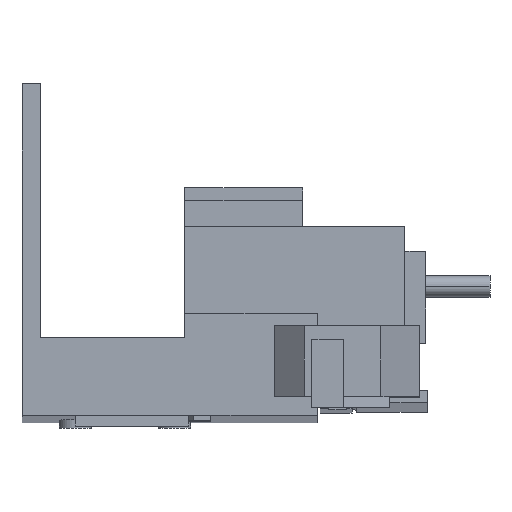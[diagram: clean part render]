
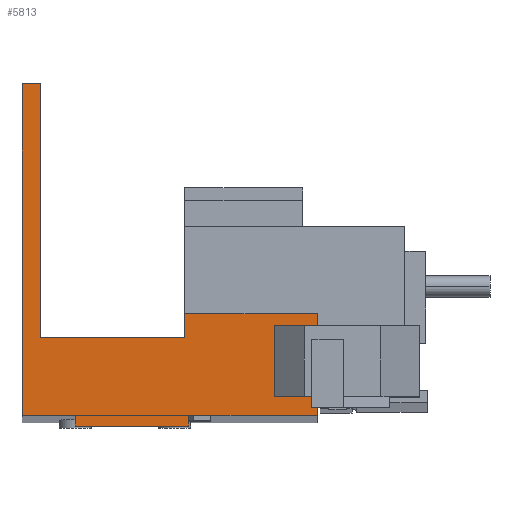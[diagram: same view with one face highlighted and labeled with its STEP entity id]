
A CAD part, front view. The second image highlights one B-rep face of the part: STEP entity #5813.
In plain terms, the highlighted planar face has unit normal (0, -1, 0.002).
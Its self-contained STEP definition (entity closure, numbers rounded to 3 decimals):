
#172 = ORIENTED_EDGE ( 'NONE', *, *, #6550, .T. ) ;
#174 = ORIENTED_EDGE ( 'NONE', *, *, #6508, .F. ) ;
#175 = ORIENTED_EDGE ( 'NONE', *, *, #6660, .F. ) ;
#177 = ORIENTED_EDGE ( 'NONE', *, *, #6485, .F. ) ;
#184 = ORIENTED_EDGE ( 'NONE', *, *, #4064, .F. ) ;
#189 = ORIENTED_EDGE ( 'NONE', *, *, #6519, .T. ) ;
#190 = ORIENTED_EDGE ( 'NONE', *, *, #6473, .F. ) ;
#191 = ORIENTED_EDGE ( 'NONE', *, *, #6535, .F. ) ;
#192 = ORIENTED_EDGE ( 'NONE', *, *, #6504, .F. ) ;
#193 = ORIENTED_EDGE ( 'NONE', *, *, #4053, .F. ) ;
#280 = VECTOR ( 'NONE', #4363, 1000. ) ;
#284 = LINE ( 'NONE', #4370, #280 ) ;
#492 = FACE_OUTER_BOUND ( 'NONE', #4998, .T. ) ;
#812 = LINE ( 'NONE', #4608, #927 ) ;
#837 = VECTOR ( 'NONE', #4233, 1000. ) ;
#843 = LINE ( 'NONE', #4235, #837 ) ;
#927 = VECTOR ( 'NONE', #4607, 1000. ) ;
#1187 = VECTOR ( 'NONE', #1552, 1000. ) ;
#1192 = VECTOR ( 'NONE', #1545, 1000. ) ;
#1194 = LINE ( 'NONE', #1556, #1192 ) ;
#1196 = LINE ( 'NONE', #1540, #1187 ) ;
#1540 = CARTESIAN_POINT ( 'NONE',  ( 2.55, -32.978, 10.519 ) ) ;
#1545 = DIRECTION ( 'NONE',  ( 0., 0.002, 1. ) ) ;
#1552 = DIRECTION ( 'NONE',  ( 1., 0., 0. ) ) ;
#1556 = CARTESIAN_POINT ( 'NONE',  ( 23.5, -33.079, -37.681 ) ) ;
#1645 = DIRECTION ( 'NONE',  ( -1., 0., 0. ) ) ;
#1652 = CARTESIAN_POINT ( 'NONE',  ( 0., -33.076, -36.181 ) ) ;
#1751 = DIRECTION ( 'NONE',  ( 1., 0., 0. ) ) ;
#1754 = CARTESIAN_POINT ( 'NONE',  ( 7.5, -33.079, -37.681 ) ) ;
#1832 = DIRECTION ( 'NONE',  ( 0., 0.002, 1. ) ) ;
#1847 = CARTESIAN_POINT ( 'NONE',  ( 7.5, -33.079, -37.681 ) ) ;
#1865 = CARTESIAN_POINT ( 'NONE',  ( 2., -33.053, -25.181 ) ) ;
#1868 = DIRECTION ( 'NONE',  ( 1., 0., 0. ) ) ;
#1910 = CARTESIAN_POINT ( 'NONE',  ( 0., -33.076, -36.181 ) ) ;
#1914 = DIRECTION ( 'NONE',  ( -1., 0., 0. ) ) ;
#1984 = CARTESIAN_POINT ( 'NONE',  ( 2.55, -33.072, -34.53 ) ) ;
#1992 = DIRECTION ( 'NONE',  ( 0., -0.002, -1. ) ) ;
#2066 = CARTESIAN_POINT ( 'NONE',  ( 41.6, -33.076, -36.181 ) ) ;
#2075 = DIRECTION ( 'NONE',  ( 0., -0.002, -1. ) ) ;
#2511 = DIRECTION ( 'NONE',  ( 1., 0., 0. ) ) ;
#2513 = DIRECTION ( 'NONE',  ( 0., 1., -0.002 ) ) ;
#2519 = CARTESIAN_POINT ( 'NONE',  ( 0., -33.076, -36.181 ) ) ;
#2522 = PLANE ( 'NONE',  #3662 ) ;
#2713 = VECTOR ( 'NONE', #1914, 1000. ) ;
#2717 = LINE ( 'NONE', #1910, #2713 ) ;
#3662 = AXIS2_PLACEMENT_3D ( 'NONE', #2519, #2513, #2511 ) ;
#4045 = EDGE_CURVE ( 'NONE', #4947, #5315, #284, .T. ) ;
#4053 = EDGE_CURVE ( 'NONE', #5022, #5166, #843, .T. ) ;
#4064 = EDGE_CURVE ( 'NONE', #5328, #5022, #812, .T. ) ;
#4233 = DIRECTION ( 'NONE',  ( 1., 0., 0. ) ) ;
#4235 = CARTESIAN_POINT ( 'NONE',  ( 41.6, -33.046, -21.831 ) ) ;
#4336 = CARTESIAN_POINT ( 'NONE',  ( 41.6, -33.076, -36.181 ) ) ;
#4339 = CARTESIAN_POINT ( 'NONE',  ( 7.5, -33.079, -37.681 ) ) ;
#4352 = CARTESIAN_POINT ( 'NONE',  ( 22.92, -33.053, -25.181 ) ) ;
#4356 = CARTESIAN_POINT ( 'NONE',  ( 0., -32.978, 10.519 ) ) ;
#4363 = DIRECTION ( 'NONE',  ( 0., 0.002, 1. ) ) ;
#4370 = CARTESIAN_POINT ( 'NONE',  ( 0., -32.978, 10.519 ) ) ;
#4379 = CARTESIAN_POINT ( 'NONE',  ( 23.5, -33.076, -36.181 ) ) ;
#4418 = CARTESIAN_POINT ( 'NONE',  ( 41.6, -33.046, -21.831 ) ) ;
#4461 = CARTESIAN_POINT ( 'NONE',  ( 2.55, -32.978, 10.519 ) ) ;
#4475 = CARTESIAN_POINT ( 'NONE',  ( 7.5, -33.076, -36.181 ) ) ;
#4494 = CARTESIAN_POINT ( 'NONE',  ( 23.5, -33.079, -37.681 ) ) ;
#4501 = CARTESIAN_POINT ( 'NONE',  ( 22.92, -33.046, -21.831 ) ) ;
#4528 = CARTESIAN_POINT ( 'NONE',  ( 2.55, -33.053, -25.181 ) ) ;
#4532 = CARTESIAN_POINT ( 'NONE',  ( 0., -33.076, -36.181 ) ) ;
#4607 = DIRECTION ( 'NONE',  ( 0., 0.002, 1. ) ) ;
#4608 = CARTESIAN_POINT ( 'NONE',  ( 22.92, -33.046, -21.831 ) ) ;
#4947 = VERTEX_POINT ( 'NONE', #4532 ) ;
#4958 = VERTEX_POINT ( 'NONE', #4528 ) ;
#4998 = EDGE_LOOP ( 'NONE', ( #192, #177, #6250, #6249, #191, #174, #189, #172, #175, #190, #193, #184 ) ) ;
#5022 = VERTEX_POINT ( 'NONE', #4501 ) ;
#5031 = VERTEX_POINT ( 'NONE', #4494 ) ;
#5068 = VERTEX_POINT ( 'NONE', #4475 ) ;
#5080 = VERTEX_POINT ( 'NONE', #4461 ) ;
#5166 = VERTEX_POINT ( 'NONE', #4418 ) ;
#5247 = VERTEX_POINT ( 'NONE', #4379 ) ;
#5315 = VERTEX_POINT ( 'NONE', #4356 ) ;
#5328 = VERTEX_POINT ( 'NONE', #4352 ) ;
#5353 = VERTEX_POINT ( 'NONE', #4339 ) ;
#5377 = VERTEX_POINT ( 'NONE', #4336 ) ;
#5813 = ADVANCED_FACE ( 'NONE', ( #492 ), #2522, .F. ) ;
#5903 = VECTOR ( 'NONE', #1832, 1000. ) ;
#5904 = VECTOR ( 'NONE', #2075, 1000. ) ;
#5909 = LINE ( 'NONE', #2066, #5904 ) ;
#5919 = LINE ( 'NONE', #1847, #5903 ) ;
#5922 = VECTOR ( 'NONE', #1868, 1000. ) ;
#5927 = LINE ( 'NONE', #1865, #5922 ) ;
#5950 = VECTOR ( 'NONE', #1645, 1000. ) ;
#5957 = LINE ( 'NONE', #1652, #5950 ) ;
#5992 = VECTOR ( 'NONE', #1992, 1000. ) ;
#5997 = LINE ( 'NONE', #1984, #5992 ) ;
#6000 = VECTOR ( 'NONE', #1751, 1000. ) ;
#6008 = LINE ( 'NONE', #1754, #6000 ) ;
#6249 = ORIENTED_EDGE ( 'NONE', *, *, #4045, .F. ) ;
#6250 = ORIENTED_EDGE ( 'NONE', *, *, #6551, .F. ) ;
#6473 = EDGE_CURVE ( 'NONE', #5166, #5377, #5909, .T. ) ;
#6485 = EDGE_CURVE ( 'NONE', #5080, #4958, #5997, .T. ) ;
#6504 = EDGE_CURVE ( 'NONE', #4958, #5328, #5927, .T. ) ;
#6508 = EDGE_CURVE ( 'NONE', #5353, #5068, #5919, .T. ) ;
#6519 = EDGE_CURVE ( 'NONE', #5353, #5031, #6008, .T. ) ;
#6535 = EDGE_CURVE ( 'NONE', #5068, #4947, #5957, .T. ) ;
#6550 = EDGE_CURVE ( 'NONE', #5031, #5247, #1194, .T. ) ;
#6551 = EDGE_CURVE ( 'NONE', #5315, #5080, #1196, .T. ) ;
#6660 = EDGE_CURVE ( 'NONE', #5377, #5247, #2717, .T. ) ;
